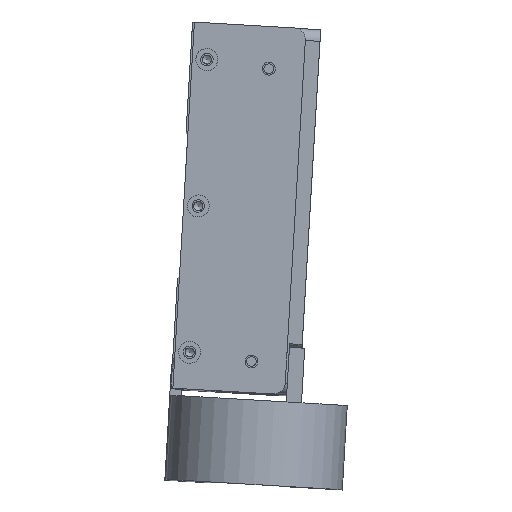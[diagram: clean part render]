
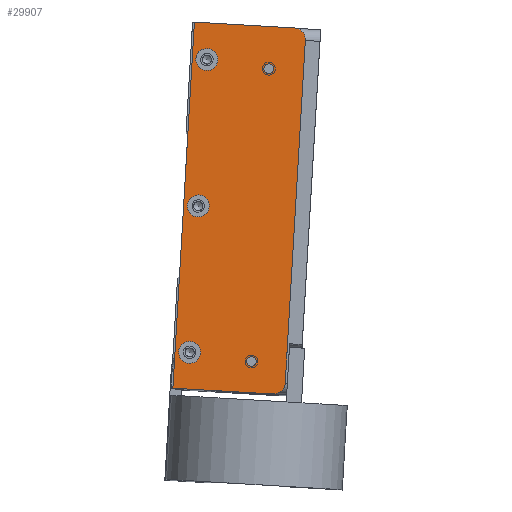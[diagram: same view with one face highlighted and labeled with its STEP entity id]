
A CAD part, top view. The second image highlights one B-rep face of the part: STEP entity #29907.
In plain terms, the highlighted planar face has unit normal (0, 0, 1) as drawn and (0, -1, 0) by its records, which use the part's own axes.
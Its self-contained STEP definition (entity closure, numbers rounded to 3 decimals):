
#855=PLANE($,#32463);
#1804=FACE_BOUND($,#4981,.T.);
#1805=FACE_BOUND($,#4982,.T.);
#1806=FACE_BOUND($,#4983,.T.);
#1807=FACE_BOUND($,#4984,.T.);
#1808=FACE_BOUND($,#4985,.T.);
#1809=FACE_BOUND($,#4986,.T.);
#4981=EDGE_LOOP($,(#23923));
#4982=EDGE_LOOP($,(#23924));
#4983=EDGE_LOOP($,(#23925));
#4984=EDGE_LOOP($,(#23926));
#4985=EDGE_LOOP($,(#23927));
#4986=EDGE_LOOP($,(#23928,#23929,#23930,#23931,#23932,#23933));
#7308=LINE($,#47609,#10040);
#7311=LINE($,#47625,#10043);
#7312=LINE($,#47627,#10044);
#7313=LINE($,#47629,#10045);
#10040=VECTOR($,#38138,93.65);
#10043=VECTOR($,#38153,27.325);
#10044=VECTOR($,#38154,100.);
#10045=VECTOR($,#38155,27.325);
#12584=CIRCLE($,#32460,3.175);
#12586=CIRCLE($,#32464,3.);
#12587=CIRCLE($,#32465,3.);
#12588=CIRCLE($,#32466,3.);
#12589=CIRCLE($,#32467,1.321);
#12590=CIRCLE($,#32468,1.321);
#12591=CIRCLE($,#32469,3.175);
#14347=VERTEX_POINT($,#47599);
#14348=VERTEX_POINT($,#47600);
#14351=VERTEX_POINT($,#47608);
#14353=VERTEX_POINT($,#47614);
#14354=VERTEX_POINT($,#47616);
#14355=VERTEX_POINT($,#47618);
#14356=VERTEX_POINT($,#47620);
#14357=VERTEX_POINT($,#47622);
#14358=VERTEX_POINT($,#47624);
#14359=VERTEX_POINT($,#47626);
#14360=VERTEX_POINT($,#47628);
#17850=EDGE_CURVE($,#14347,#14348,#12584,.T.);
#17854=EDGE_CURVE($,#14348,#14351,#7308,.T.);
#17857=EDGE_CURVE($,#14353,#14353,#12586,.T.);
#17858=EDGE_CURVE($,#14354,#14354,#12587,.T.);
#17859=EDGE_CURVE($,#14355,#14355,#12588,.T.);
#17860=EDGE_CURVE($,#14356,#14356,#12589,.T.);
#17861=EDGE_CURVE($,#14357,#14357,#12590,.T.);
#17862=EDGE_CURVE($,#14347,#14358,#7311,.T.);
#17863=EDGE_CURVE($,#14358,#14359,#7312,.T.);
#17864=EDGE_CURVE($,#14359,#14360,#7313,.T.);
#17865=EDGE_CURVE($,#14351,#14360,#12591,.T.);
#23923=ORIENTED_EDGE($,*,*,#17857,.T.);
#23924=ORIENTED_EDGE($,*,*,#17858,.T.);
#23925=ORIENTED_EDGE($,*,*,#17859,.T.);
#23926=ORIENTED_EDGE($,*,*,#17860,.T.);
#23927=ORIENTED_EDGE($,*,*,#17861,.T.);
#23928=ORIENTED_EDGE($,*,*,#17850,.F.);
#23929=ORIENTED_EDGE($,*,*,#17862,.T.);
#23930=ORIENTED_EDGE($,*,*,#17863,.T.);
#23931=ORIENTED_EDGE($,*,*,#17864,.T.);
#23932=ORIENTED_EDGE($,*,*,#17865,.F.);
#23933=ORIENTED_EDGE($,*,*,#17854,.F.);
#29907=ADVANCED_FACE($,(#1804,#1805,#1806,#1807,#1808,#1809),#855,.T.);
#32460=AXIS2_PLACEMENT_3D($,#47601,#38130,#38131);
#32463=AXIS2_PLACEMENT_3D($,#47613,#38141,#38142);
#32464=AXIS2_PLACEMENT_3D($,#47615,#38143,#38144);
#32465=AXIS2_PLACEMENT_3D($,#47617,#38145,#38146);
#32466=AXIS2_PLACEMENT_3D($,#47619,#38147,#38148);
#32467=AXIS2_PLACEMENT_3D($,#47621,#38149,#38150);
#32468=AXIS2_PLACEMENT_3D($,#47623,#38151,#38152);
#32469=AXIS2_PLACEMENT_3D($,#47630,#38156,#38157);
#38130=DIRECTION('center_axis',(0.,1.,0.));
#38131=DIRECTION('ref_axis',(0.707,0.,0.707));
#38138=DIRECTION($,(0.,0.,-1.));
#38141=DIRECTION('center_axis',(0.,-1.,0.));
#38142=DIRECTION('ref_axis',(0.,0.,-1.));
#38143=DIRECTION('center_axis',(0.,1.,0.));
#38144=DIRECTION('ref_axis',(1.,0.,0.));
#38145=DIRECTION('center_axis',(0.,1.,0.));
#38146=DIRECTION('ref_axis',(1.,0.,0.));
#38147=DIRECTION('center_axis',(0.,1.,0.));
#38148=DIRECTION('ref_axis',(1.,0.,0.));
#38149=DIRECTION('center_axis',(0.,1.,0.));
#38150=DIRECTION('ref_axis',(1.,0.,0.));
#38151=DIRECTION('center_axis',(0.,1.,0.));
#38152=DIRECTION('ref_axis',(1.,0.,0.));
#38153=DIRECTION($,(-1.,0.,0.));
#38154=DIRECTION($,(0.,0.,-1.));
#38155=DIRECTION($,(1.,0.,0.));
#38156=DIRECTION('center_axis',(0.,1.,0.));
#38157=DIRECTION('ref_axis',(0.707,0.,-0.707));
#47599=CARTESIAN_POINT('',(12.075,-2.5,50.));
#47600=CARTESIAN_POINT('',(15.25,-2.5,46.825));
#47601=CARTESIAN_POINT('Origin',(12.075,-2.5,46.825));
#47608=CARTESIAN_POINT('',(15.25,-2.5,-46.825));
#47609=CARTESIAN_POINT($,(15.25,-2.5,0.));
#47613=CARTESIAN_POINT('Origin',(15.25,-2.5,0.));
#47614=CARTESIAN_POINT('',(-8.25,-2.5,0.));
#47615=CARTESIAN_POINT('Origin',(-11.25,-2.5,0.));
#47616=CARTESIAN_POINT('',(-8.25,-2.5,40.));
#47617=CARTESIAN_POINT('Origin',(-11.25,-2.5,40.));
#47618=CARTESIAN_POINT('',(-8.25,-2.5,-40.));
#47619=CARTESIAN_POINT('Origin',(-11.25,-2.5,-40.));
#47620=CARTESIAN_POINT('',(7.071,-2.5,38.5));
#47621=CARTESIAN_POINT('Origin',(5.75,-2.5,38.5));
#47622=CARTESIAN_POINT('',(7.037,-2.5,-41.5));
#47623=CARTESIAN_POINT('Origin',(5.716,-2.5,-41.5));
#47624=CARTESIAN_POINT('',(-15.25,-2.5,50.));
#47625=CARTESIAN_POINT($,(15.25,-2.5,50.));
#47626=CARTESIAN_POINT('',(-15.25,-2.5,-50.));
#47627=CARTESIAN_POINT($,(-15.25,-2.5,0.));
#47628=CARTESIAN_POINT('',(12.075,-2.5,-50.));
#47629=CARTESIAN_POINT($,(15.25,-2.5,-50.));
#47630=CARTESIAN_POINT('Origin',(12.075,-2.5,-46.825));
